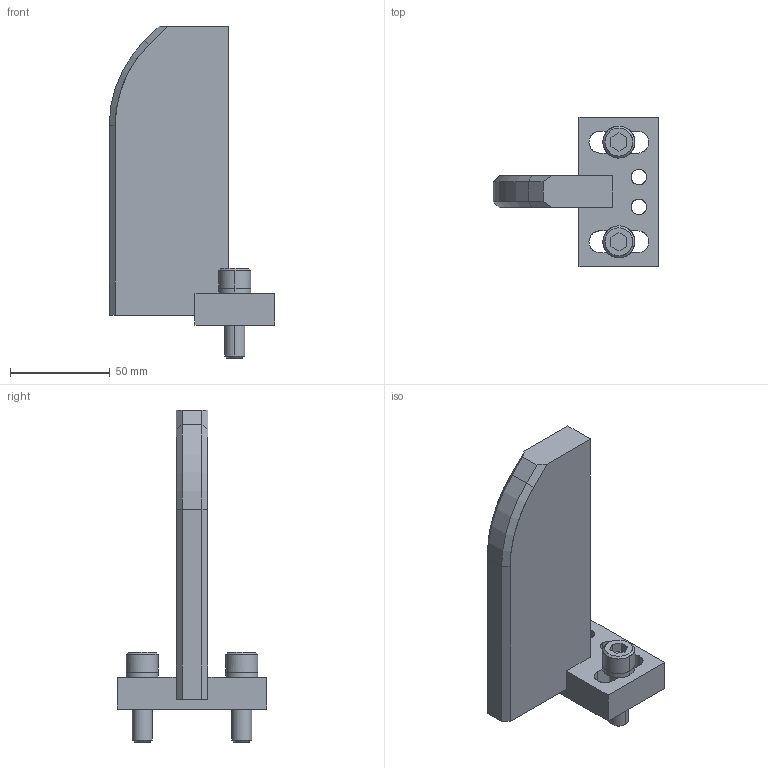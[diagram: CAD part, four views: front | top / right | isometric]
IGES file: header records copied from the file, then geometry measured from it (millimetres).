
Global section: file name: E:\UnigraphicsGraphicData\MISUMI_PRESS-PARTS\IGES\3d_ngwka-150-25-s60-k45-m10_01607_r00.igs; native system: NX V5.0; preprocessor: UGS NX IGES V5.0; author: MISUMI; date: 20110105.162120; units: millimetre
Bounding box: 83 x 75 x 166.5 mm (x, y, z)
Surface area: 39576.1 mm2 (no closed solid volume)
Topology: 0 solids, 0 shells, 104 faces, 666 edges, 666 vertices
Faces by surface type: bspline 104
